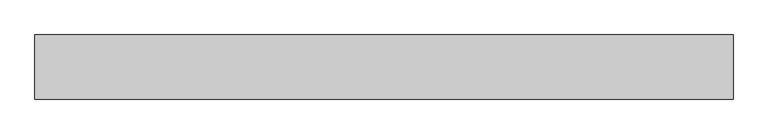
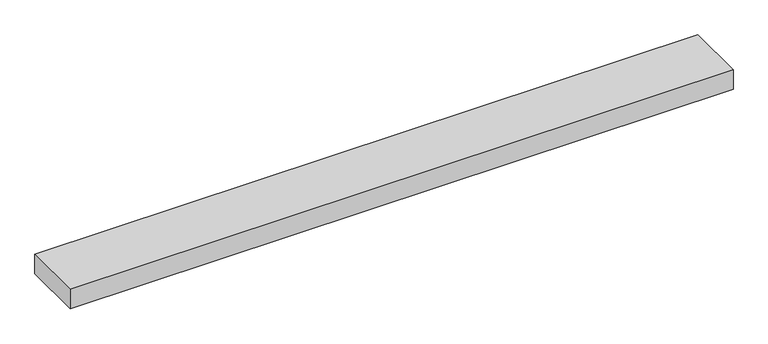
"""IFC4 building model written with IfcOpenShell, lengths in millimetres: proxy geometry, FOUNDATION^PO 2_LIFT TOP-BACK KEEL."""

from ifc_helpers import new_model, si_unit, origin, origin_with_axes, place, context, project, spatial, polyline, outline, extrude, source, transform, mapped, element, save


def generic_models_f1a44bce(model_context):
    return source(origin(), model_context, "Body", "SweptSolid", [
        extrude(outline(polyline([(1244.6, 114.3), (1244.6, 0.0), (0.0, 0.0), (0.0, 114.3), (1244.6, 114.3)])), origin_with_axes(), (0.0, 0.0, 1.0), 38.1),
    ])


if __name__ == "__main__":
    model = new_model("IFC4")
    model_context = context("Model", 3, world=origin())
    ifc_project = project(units=[si_unit("LENGTHUNIT", "METRE", prefix="MILLI")], contexts=[model_context])
    site = spatial("IfcSite", under=ifc_project)
    building = spatial("IfcBuilding", under=site)
    placement = place(None, origin())
    generic_models_shape = generic_models_f1a44bce(model_context)
    element("IfcBuildingElementProxy", 1, Name="FOUNDATION^PO 2_LIFT TOP-BACK KEEL", ObjectType="FOUNDATION^PO 2_LIFT TOP-BACK KEEL", at=placement, inside=building, context=model_context, shape_type="MappedRepresentation", body=[
        mapped(generic_models_shape, transform((0.0, 0.0, 0.0), x_axis=(1.0, 0.0, 0.0), y_axis=(0.0, 1.0, 0.0), z_axis=(0.0, 0.0, 1.0))),
    ])
    save(model, "model.ifc")
